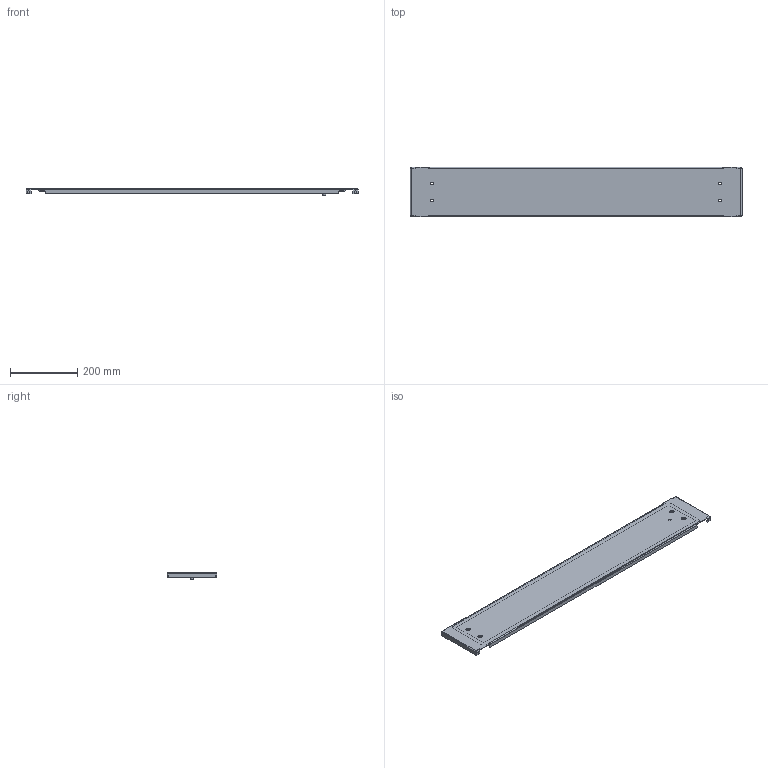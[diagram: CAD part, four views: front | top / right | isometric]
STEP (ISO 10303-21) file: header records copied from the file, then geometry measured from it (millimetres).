
FILE_DESCRIPTION(('STEP AP203'), '1');
FILE_NAME('Ïàíåëü ëèöåâàÿ ãëóõàÿ 150õ1000 ìì OptiBox M 419471 ÊÝÀÇ', '', ('UNSPECIFIED'), ('UNSPECIFIED'), 'C3D Converter', 'C3D Toolkit', '');
FILE_SCHEMA(('CONFIG_CONTROL_DESIGN'));
Length unit declared in the file: millimetre
Bounding box: 986.4 x 147 x 18.9 mm (x, y, z)
Volume: 362148.7 mm3; surface area: 407230.6 mm2
Topology: 3 solids, 3 shells, 168 faces, 385 edges, 230 vertices
Faces by surface type: plane 109, cylinder 51, bspline 8
Full cylindrical faces by diameter (mm): 0.75 x1, 1 x1, 5 x2, 7.3 x4, 8 x1, 9.3 x1, 13 x1, 13.5 x4
Entity records: 5632 total; most frequent: CARTESIAN_POINT 1897, ORIENTED_EDGE 740, DIRECTION 726, EDGE_CURVE 370, LINE 264, VECTOR 264, AXIS2_PLACEMENT_3D 231, VERTEX_POINT 230
